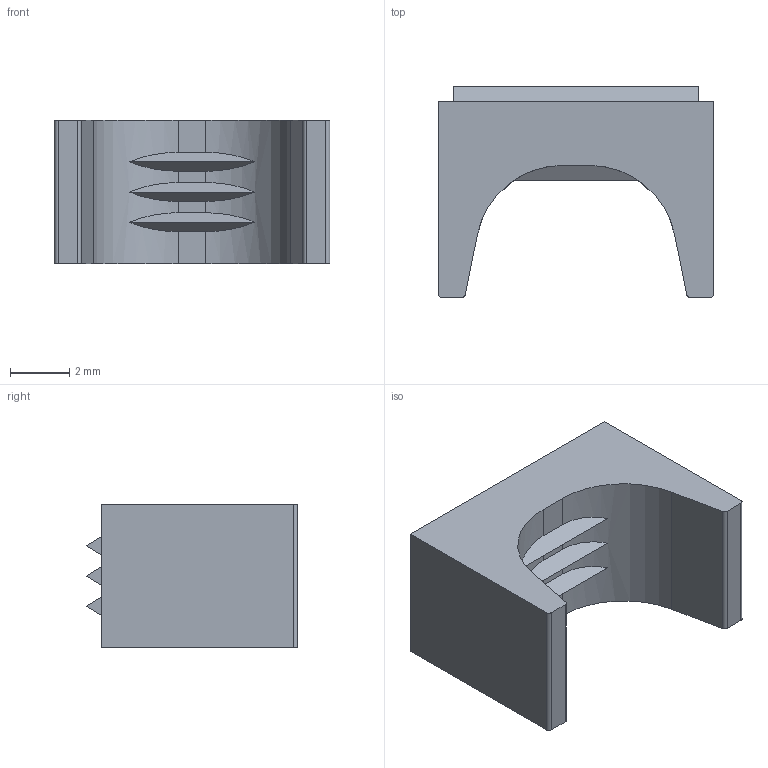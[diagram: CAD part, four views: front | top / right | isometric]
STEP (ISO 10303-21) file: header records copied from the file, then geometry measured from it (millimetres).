
FILE_DESCRIPTION((''),'2;1');
FILE_NAME('D:\_NTC CAD MODELS & ASSEMBLIES - STEP\STEP FILES\covers - mh\mhdeppk series -\mhdeppk9k\9c strain relief.stp','2016-05-10T12:36:10',('j_dipietro'),(''),'Autodesk Inventor 2012','Autodesk Inventor 2012','');
FILE_SCHEMA(('CONFIG_CONTROL_DESIGN'));
Length unit declared in the file: inch
Products named in the file (1): 9c strain relief
Bounding box: 9.27 x 7.11 x 4.83 mm (x, y, z)
Volume: 170.1 mm3; surface area: 268.4 mm2
Topology: 1 solids, 1 shells, 37 faces, 96 edges, 64 vertices
Faces by surface type: plane 31, cylinder 6
Entity records: 1162 total; most frequent: CARTESIAN_POINT 198, DIRECTION 196, ORIENTED_EDGE 192, EDGE_CURVE 96, VECTOR 72, LINE 72, VERTEX_POINT 64, AXIS2_PLACEMENT_3D 62
